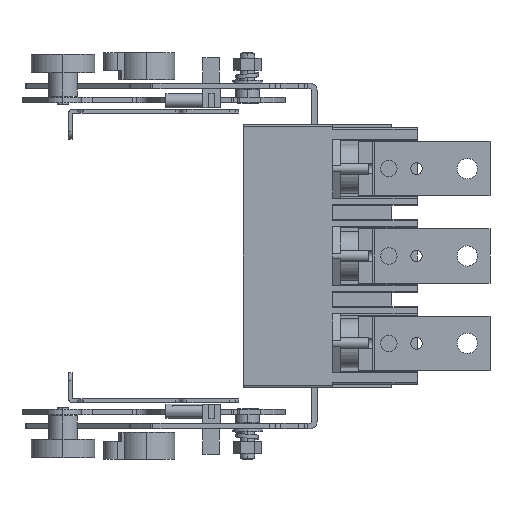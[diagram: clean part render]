
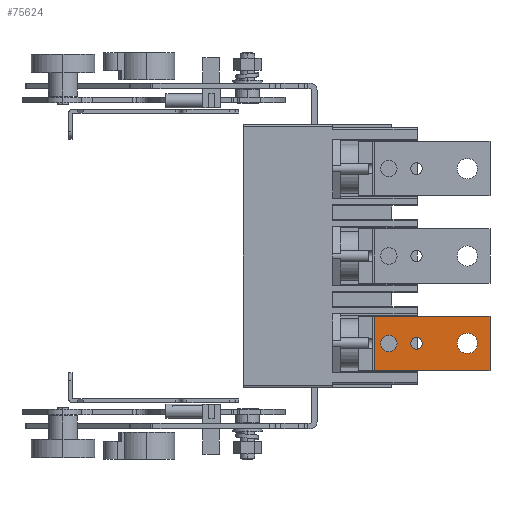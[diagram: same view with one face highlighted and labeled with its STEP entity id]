
A CAD part, left-side view. The second image highlights one B-rep face of the part: STEP entity #75624.
In plain terms, the highlighted planar face has unit normal (-1, 0, 0).
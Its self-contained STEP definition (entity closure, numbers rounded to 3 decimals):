
#1592 = DIRECTION ( 'NONE',  ( 0., -1., 0. ) ) ;
#2604 = AXIS2_PLACEMENT_3D ( 'NONE', #92047, #16239, #38373 ) ;
#3015 = VECTOR ( 'NONE', #19004, 1000. ) ;
#4518 = EDGE_CURVE ( 'NONE', #40488, #23661, #43875, .T. ) ;
#4729 = EDGE_LOOP ( 'NONE', ( #85554, #75353 ) ) ;
#4840 = EDGE_CURVE ( 'NONE', #38920, #87313, #90448, .T. ) ;
#7132 = AXIS2_PLACEMENT_3D ( 'NONE', #83301, #15022, #61183 ) ;
#7170 = DIRECTION ( 'NONE',  ( 0., 0., 1. ) ) ;
#10646 = EDGE_LOOP ( 'NONE', ( #91962, #18668, #89940, #52804 ) ) ;
#13341 = DIRECTION ( 'NONE',  ( 0., 0., 1. ) ) ;
#13741 = DIRECTION ( 'NONE',  ( 0., 0., 1. ) ) ;
#14318 = CARTESIAN_POINT ( 'NONE',  ( 1394.071, -248.737, 56.209 ) ) ;
#15022 = DIRECTION ( 'NONE',  ( 1., 0., 0. ) ) ;
#16239 = DIRECTION ( 'NONE',  ( -1., 0., 0. ) ) ;
#17615 = VECTOR ( 'NONE', #1592, 1000. ) ;
#18668 = ORIENTED_EDGE ( 'NONE', *, *, #79917, .T. ) ;
#19004 = DIRECTION ( 'NONE',  ( 0., 1., 0. ) ) ;
#21269 = DIRECTION ( 'NONE',  ( 1., 0., 0. ) ) ;
#21853 = DIRECTION ( 'NONE',  ( 0., 0., 1. ) ) ;
#22818 = CARTESIAN_POINT ( 'NONE',  ( 1394.071, -193.187, 41.209 ) ) ;
#23661 = VERTEX_POINT ( 'NONE', #96786 ) ;
#24104 = EDGE_CURVE ( 'NONE', #87313, #38920, #56554, .T. ) ;
#24294 = CARTESIAN_POINT ( 'NONE',  ( 1394.071, -248.737, 26.209 ) ) ;
#25858 = CIRCLE ( 'NONE', #61119, 4.5 ) ;
#26911 = CARTESIAN_POINT ( 'NONE',  ( 1394.071, -208.337, 41.209 ) ) ;
#28344 = VERTEX_POINT ( 'NONE', #46473 ) ;
#29894 = DIRECTION ( 'NONE',  ( 1., 0., 0. ) ) ;
#30587 = AXIS2_PLACEMENT_3D ( 'NONE', #85579, #54969, #32397 ) ;
#32337 = LINE ( 'NONE', #24294, #33941 ) ;
#32397 = DIRECTION ( 'NONE',  ( 0., 0., 1. ) ) ;
#33371 = CARTESIAN_POINT ( 'NONE',  ( 1394.071, -208.337, 38.059 ) ) ;
#33693 = AXIS2_PLACEMENT_3D ( 'NONE', #68405, #74429, #7170 ) ;
#33941 = VECTOR ( 'NONE', #68515, 1000. ) ;
#34366 = ORIENTED_EDGE ( 'NONE', *, *, #68080, .T. ) ;
#38190 = EDGE_CURVE ( 'NONE', #99173, #28344, #74563, .T. ) ;
#38373 = DIRECTION ( 'NONE',  ( 0., 0., 1. ) ) ;
#38857 = FACE_BOUND ( 'NONE', #49026, .T. ) ;
#38920 = VERTEX_POINT ( 'NONE', #33371 ) ;
#40142 = CARTESIAN_POINT ( 'NONE',  ( 1394.071, -250.437, 56.209 ) ) ;
#40488 = VERTEX_POINT ( 'NONE', #49170 ) ;
#41524 = CARTESIAN_POINT ( 'NONE',  ( 1394.071, -193.187, 36.709 ) ) ;
#42378 = CARTESIAN_POINT ( 'NONE',  ( 1394.071, -248.737, 26.209 ) ) ;
#43524 = VERTEX_POINT ( 'NONE', #42378 ) ;
#43875 = LINE ( 'NONE', #58919, #77600 ) ;
#46473 = CARTESIAN_POINT ( 'NONE',  ( 1394.071, -236.287, 46.759 ) ) ;
#46858 = PLANE ( 'NONE',  #2604 ) ;
#49026 = EDGE_LOOP ( 'NONE', ( #88419, #34366 ) ) ;
#49170 = CARTESIAN_POINT ( 'NONE',  ( 1394.071, -185.437, 56.209 ) ) ;
#52804 = ORIENTED_EDGE ( 'NONE', *, *, #66752, .T. ) ;
#52966 = CIRCLE ( 'NONE', #33693, 5.55 ) ;
#54179 = ORIENTED_EDGE ( 'NONE', *, *, #66706, .T. ) ;
#54969 = DIRECTION ( 'NONE',  ( 1., 0., 0. ) ) ;
#56554 = CIRCLE ( 'NONE', #58137, 3.15 ) ;
#58137 = AXIS2_PLACEMENT_3D ( 'NONE', #26911, #80601, #13341 ) ;
#58919 = CARTESIAN_POINT ( 'NONE',  ( 1394.071, -185.437, 41.209 ) ) ;
#61119 = AXIS2_PLACEMENT_3D ( 'NONE', #22818, #29894, #21853 ) ;
#61183 = DIRECTION ( 'NONE',  ( 0., 0., 1. ) ) ;
#64398 = EDGE_LOOP ( 'NONE', ( #54179, #92394 ) ) ;
#66706 = EDGE_CURVE ( 'NONE', #28344, #99173, #52966, .T. ) ;
#66752 = EDGE_CURVE ( 'NONE', #23661, #43524, #91965, .T. ) ;
#68080 = EDGE_CURVE ( 'NONE', #81832, #94207, #25858, .T. ) ;
#68405 = CARTESIAN_POINT ( 'NONE',  ( 1394.071, -236.287, 41.209 ) ) ;
#68515 = DIRECTION ( 'NONE',  ( 0., 0., 1. ) ) ;
#69450 = FACE_OUTER_BOUND ( 'NONE', #10646, .T. ) ;
#70600 = CARTESIAN_POINT ( 'NONE',  ( 1394.071, -208.337, 44.359 ) ) ;
#73003 = DIRECTION ( 'NONE',  ( 0., 0., -1. ) ) ;
#74429 = DIRECTION ( 'NONE',  ( 1., 0., 0. ) ) ;
#74563 = CIRCLE ( 'NONE', #76135, 5.55 ) ;
#75353 = ORIENTED_EDGE ( 'NONE', *, *, #4840, .T. ) ;
#75624 = ADVANCED_FACE ( 'NONE', ( #76488, #76969, #38857, #69450 ), #46858, .T. ) ;
#76135 = AXIS2_PLACEMENT_3D ( 'NONE', #82503, #21269, #13741 ) ;
#76488 = FACE_BOUND ( 'NONE', #64398, .T. ) ;
#76969 = FACE_BOUND ( 'NONE', #4729, .T. ) ;
#77600 = VECTOR ( 'NONE', #73003, 1000. ) ;
#78255 = LINE ( 'NONE', #40142, #3015 ) ;
#79917 = EDGE_CURVE ( 'NONE', #86310, #40488, #78255, .T. ) ;
#80601 = DIRECTION ( 'NONE',  ( 1., 0., 0. ) ) ;
#81832 = VERTEX_POINT ( 'NONE', #41524 ) ;
#82503 = CARTESIAN_POINT ( 'NONE',  ( 1394.071, -236.287, 41.209 ) ) ;
#82795 = CARTESIAN_POINT ( 'NONE',  ( 1394.071, -193.187, 45.709 ) ) ;
#83301 = CARTESIAN_POINT ( 'NONE',  ( 1394.071, -208.337, 41.209 ) ) ;
#83782 = EDGE_CURVE ( 'NONE', #43524, #86310, #32337, .T. ) ;
#83921 = CARTESIAN_POINT ( 'NONE',  ( 1394.071, -236.287, 35.659 ) ) ;
#84912 = CARTESIAN_POINT ( 'NONE',  ( 1394.071, -158.437, 26.209 ) ) ;
#85554 = ORIENTED_EDGE ( 'NONE', *, *, #24104, .T. ) ;
#85579 = CARTESIAN_POINT ( 'NONE',  ( 1394.071, -193.187, 41.209 ) ) ;
#86310 = VERTEX_POINT ( 'NONE', #14318 ) ;
#87313 = VERTEX_POINT ( 'NONE', #70600 ) ;
#88419 = ORIENTED_EDGE ( 'NONE', *, *, #93523, .T. ) ;
#89940 = ORIENTED_EDGE ( 'NONE', *, *, #4518, .T. ) ;
#90448 = CIRCLE ( 'NONE', #7132, 3.15 ) ;
#91962 = ORIENTED_EDGE ( 'NONE', *, *, #83782, .T. ) ;
#91965 = LINE ( 'NONE', #84912, #17615 ) ;
#92047 = CARTESIAN_POINT ( 'NONE',  ( 1394.071, -157.437, 41.209 ) ) ;
#92394 = ORIENTED_EDGE ( 'NONE', *, *, #38190, .T. ) ;
#93523 = EDGE_CURVE ( 'NONE', #94207, #81832, #94686, .T. ) ;
#94207 = VERTEX_POINT ( 'NONE', #82795 ) ;
#94686 = CIRCLE ( 'NONE', #30587, 4.5 ) ;
#96786 = CARTESIAN_POINT ( 'NONE',  ( 1394.071, -185.437, 26.209 ) ) ;
#99173 = VERTEX_POINT ( 'NONE', #83921 ) ;
